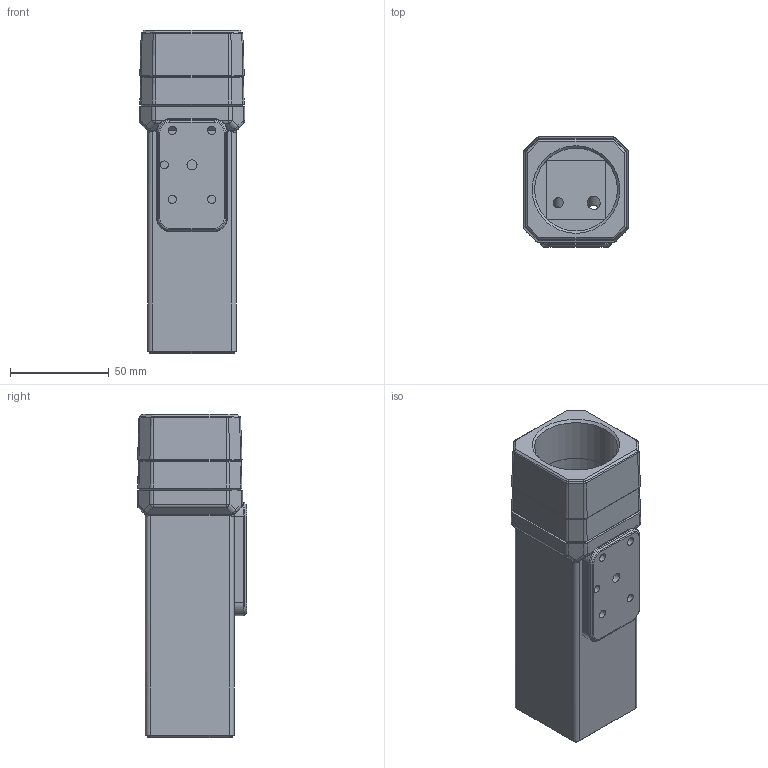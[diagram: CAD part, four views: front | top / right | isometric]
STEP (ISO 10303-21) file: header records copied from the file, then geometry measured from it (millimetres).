
FILE_DESCRIPTION (( 'STEP AP214' ), '1' );
FILE_NAME ('GET_CAM_Housing_Base+15mm_Outside_2021_2_16.STEP', '2021-02-16T14:21:31', ( '' ), ( '' ), 'SwSTEP 2.0', 'SolidWorks 2020', '' );
FILE_SCHEMA (( 'AUTOMOTIVE_DESIGN' ));
Length unit declared in the file: millimetre
Products named in the file (1): GET_CAM_Housing_Base+15mm_Outside_2021_2_16
Bounding box: 53.5 x 55.75 x 163.8 mm (x, y, z)
Volume: 220427.9 mm3; surface area: 59231.2 mm2
Topology: 3 solids, 3 shells, 266 faces, 595 edges, 338 vertices
Faces by surface type: plane 97, cylinder 68, cone 57, torus 20, sphere 12, bspline 12
Full cylindrical faces by diameter (mm): 4 x1, 4.2 x4, 5 x1, 5.105 x1, 6.5 x1, 42 x2
Entity records: 7286 total; most frequent: CARTESIAN_POINT 1465, DIRECTION 1270, ORIENTED_EDGE 1146, EDGE_CURVE 573, AXIS2_PLACEMENT_3D 478, VERTEX_POINT 331, VECTOR 314, LINE 314
